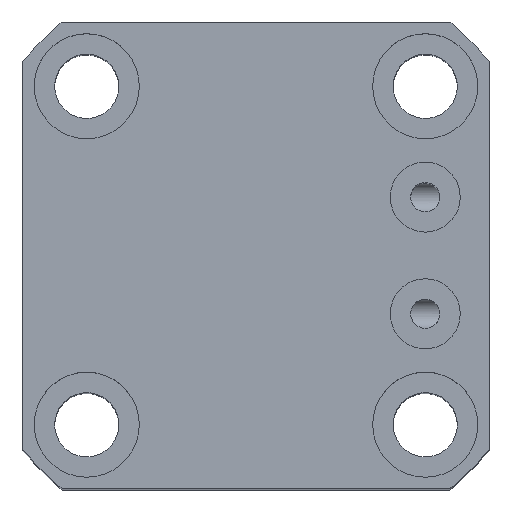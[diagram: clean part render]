
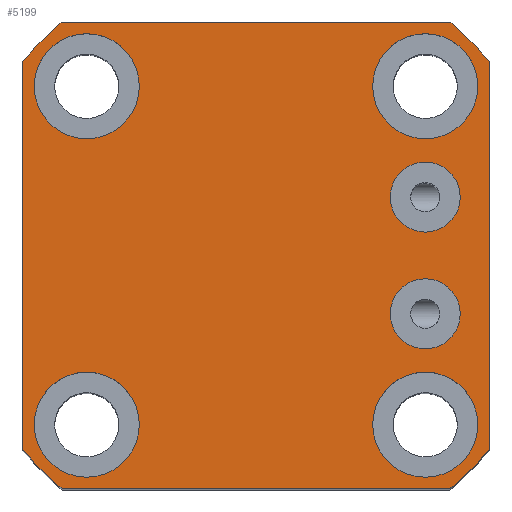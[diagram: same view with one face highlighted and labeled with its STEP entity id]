
A CAD part, top view. The second image highlights one B-rep face of the part: STEP entity #5199.
In plain terms, the highlighted planar face has unit normal (0, 0, 1).
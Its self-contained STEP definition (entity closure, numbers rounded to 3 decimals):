
#2854=FACE_BOUND('',#6178,.T.);
#2855=FACE_BOUND('',#6179,.T.);
#2856=FACE_BOUND('',#6180,.T.);
#2857=FACE_BOUND('',#6181,.T.);
#2858=FACE_BOUND('',#6182,.T.);
#2859=FACE_BOUND('',#6183,.T.);
#2860=FACE_BOUND('',#6184,.T.);
#3055=LINE('',#18679,#3894);
#3062=LINE('',#19384,#3901);
#3066=LINE('',#19396,#3905);
#3069=LINE('',#19405,#3908);
#3894=VECTOR('',#12867,1.);
#3901=VECTOR('',#13022,1.);
#3905=VECTOR('',#13034,1.);
#3908=VECTOR('',#13045,1.);
#4806=PLANE('',#12375);
#5199=ADVANCED_FACE('',(#2854,#2855,#2856,#2857,#2858,#2859,#2860),#4806,
 .T.);
#6178=EDGE_LOOP('',(#7146));
#6179=EDGE_LOOP('',(#7147));
#6180=EDGE_LOOP('',(#7148));
#6181=EDGE_LOOP('',(#7149));
#6182=EDGE_LOOP('',(#7150));
#6183=EDGE_LOOP('',(#7151));
#6184=EDGE_LOOP('',(#7152,#7153,#7154,#7155,#7156,#7157,#7158,#7159));
#6714=CIRCLE('',#12297,6.);
#6716=CIRCLE('',#12300,6.);
#6731=CIRCLE('',#12324,9.);
#6733=CIRCLE('',#12327,9.);
#6735=CIRCLE('',#12330,9.);
#6737=CIRCLE('',#12333,9.);
#6756=CIRCLE('',#12361,52.);
#6758=CIRCLE('',#12364,52.);
#6760=CIRCLE('',#12368,52.);
#6762=CIRCLE('',#12372,52.);
#7146=ORIENTED_EDGE('',*,*,#10639,.F.);
#7147=ORIENTED_EDGE('',*,*,#10641,.F.);
#7148=ORIENTED_EDGE('',*,*,#10697,.F.);
#7149=ORIENTED_EDGE('',*,*,#10699,.F.);
#7150=ORIENTED_EDGE('',*,*,#10701,.F.);
#7151=ORIENTED_EDGE('',*,*,#10703,.F.);
#7152=ORIENTED_EDGE('',*,*,#10722,.T.);
#7153=ORIENTED_EDGE('',*,*,#10627,.T.);
#7154=ORIENTED_EDGE('',*,*,#10726,.T.);
#7155=ORIENTED_EDGE('',*,*,#10729,.T.);
#7156=ORIENTED_EDGE('',*,*,#10732,.T.);
#7157=ORIENTED_EDGE('',*,*,#10735,.T.);
#7158=ORIENTED_EDGE('',*,*,#10738,.T.);
#7159=ORIENTED_EDGE('',*,*,#10740,.T.);
#9609=VERTEX_POINT('',#18678);
#9610=VERTEX_POINT('',#18680);
#9621=VERTEX_POINT('',#18730);
#9623=VERTEX_POINT('',#18735);
#9678=VERTEX_POINT('',#19309);
#9680=VERTEX_POINT('',#19314);
#9682=VERTEX_POINT('',#19319);
#9684=VERTEX_POINT('',#19324);
#9703=VERTEX_POINT('',#19371);
#9705=VERTEX_POINT('',#19377);
#9707=VERTEX_POINT('',#19383);
#9709=VERTEX_POINT('',#19389);
#9711=VERTEX_POINT('',#19395);
#9713=VERTEX_POINT('',#19401);
#10627=EDGE_CURVE('',#9610,#9609,#3055,.T.);
#10639=EDGE_CURVE('',#9621,#9621,#6714,.T.);
#10641=EDGE_CURVE('',#9623,#9623,#6716,.T.);
#10697=EDGE_CURVE('',#9678,#9678,#6731,.T.);
#10699=EDGE_CURVE('',#9680,#9680,#6733,.T.);
#10701=EDGE_CURVE('',#9682,#9682,#6735,.T.);
#10703=EDGE_CURVE('',#9684,#9684,#6737,.T.);
#10722=EDGE_CURVE('',#9703,#9610,#6756,.T.);
#10726=EDGE_CURVE('',#9609,#9705,#6758,.T.);
#10729=EDGE_CURVE('',#9705,#9707,#3062,.T.);
#10732=EDGE_CURVE('',#9707,#9709,#6760,.T.);
#10735=EDGE_CURVE('',#9709,#9711,#3066,.T.);
#10738=EDGE_CURVE('',#9711,#9713,#6762,.T.);
#10740=EDGE_CURVE('',#9713,#9703,#3069,.T.);
#12297=AXIS2_PLACEMENT_3D('',#18729,#12879,#12880);
#12300=AXIS2_PLACEMENT_3D('',#18734,#12885,#12886);
#12324=AXIS2_PLACEMENT_3D('',#19308,#12934,#12935);
#12327=AXIS2_PLACEMENT_3D('',#19313,#12940,#12941);
#12330=AXIS2_PLACEMENT_3D('',#19318,#12946,#12947);
#12333=AXIS2_PLACEMENT_3D('',#19323,#12952,#12953);
#12361=AXIS2_PLACEMENT_3D('',#19370,#13008,#13009);
#12364=AXIS2_PLACEMENT_3D('',#19378,#13016,#13017);
#12368=AXIS2_PLACEMENT_3D('',#19390,#13028,#13029);
#12372=AXIS2_PLACEMENT_3D('',#19402,#13040,#13041);
#12375=AXIS2_PLACEMENT_3D('',#19407,#13048,#13049);
#12867=DIRECTION('',(-1.,0.,0.));
#12879=DIRECTION('',(0.,0.,1.));
#12880=DIRECTION('',(1.,0.,0.));
#12885=DIRECTION('',(0.,0.,1.));
#12886=DIRECTION('',(1.,0.,0.));
#12934=DIRECTION('',(0.,0.,1.));
#12935=DIRECTION('',(1.,0.,0.));
#12940=DIRECTION('',(0.,0.,1.));
#12941=DIRECTION('',(1.,0.,0.));
#12946=DIRECTION('',(0.,0.,1.));
#12947=DIRECTION('',(1.,0.,0.));
#12952=DIRECTION('',(0.,0.,1.));
#12953=DIRECTION('',(1.,0.,0.));
#13008=DIRECTION('',(0.,0.,1.));
#13009=DIRECTION('',(1.,0.,0.));
#13016=DIRECTION('',(0.,0.,1.));
#13017=DIRECTION('',(1.,0.,0.));
#13022=DIRECTION('',(0.,-1.,0.));
#13028=DIRECTION('',(0.,0.,1.));
#13029=DIRECTION('',(1.,0.,0.));
#13034=DIRECTION('',(1.,0.,0.));
#13040=DIRECTION('',(0.,0.,1.));
#13041=DIRECTION('',(1.,0.,0.));
#13045=DIRECTION('',(0.,1.,0.));
#13048=DIRECTION('',(0.,0.,1.));
#13049=DIRECTION('',(-1.,0.,0.));
#18678=CARTESIAN_POINT('',(-33.226,40.,55.));
#18679=CARTESIAN_POINT('',(-33.226,40.,55.));
#18680=CARTESIAN_POINT('',(33.226,40.,55.));
#18729=CARTESIAN_POINT('',(29.,-10.,55.));
#18730=CARTESIAN_POINT('',(35.,-10.,55.));
#18734=CARTESIAN_POINT('',(29.,10.,55.));
#18735=CARTESIAN_POINT('',(35.,10.,55.));
#19308=CARTESIAN_POINT('',(29.,-29.,55.));
#19309=CARTESIAN_POINT('',(38.,-29.,55.));
#19313=CARTESIAN_POINT('',(-29.,-29.,55.));
#19314=CARTESIAN_POINT('',(-20.,-29.,55.));
#19318=CARTESIAN_POINT('',(-29.,29.,55.));
#19319=CARTESIAN_POINT('',(-20.,29.,55.));
#19323=CARTESIAN_POINT('',(29.,29.,55.));
#19324=CARTESIAN_POINT('',(38.,29.,55.));
#19370=CARTESIAN_POINT('',(0.,0.,55.));
#19371=CARTESIAN_POINT('',(40.,33.226,55.));
#19377=CARTESIAN_POINT('',(-40.,33.226,55.));
#19378=CARTESIAN_POINT('',(0.,0.,55.));
#19383=CARTESIAN_POINT('',(-40.,-33.226,55.));
#19384=CARTESIAN_POINT('',(-40.,33.226,55.));
#19389=CARTESIAN_POINT('',(-33.226,-40.,55.));
#19390=CARTESIAN_POINT('',(0.,0.,55.));
#19395=CARTESIAN_POINT('',(33.226,-40.,55.));
#19396=CARTESIAN_POINT('',(-33.226,-40.,55.));
#19401=CARTESIAN_POINT('',(40.,-33.226,55.));
#19402=CARTESIAN_POINT('',(0.,0.,55.));
#19405=CARTESIAN_POINT('',(40.,33.226,55.));
#19407=CARTESIAN_POINT('',(0.,0.,55.));
